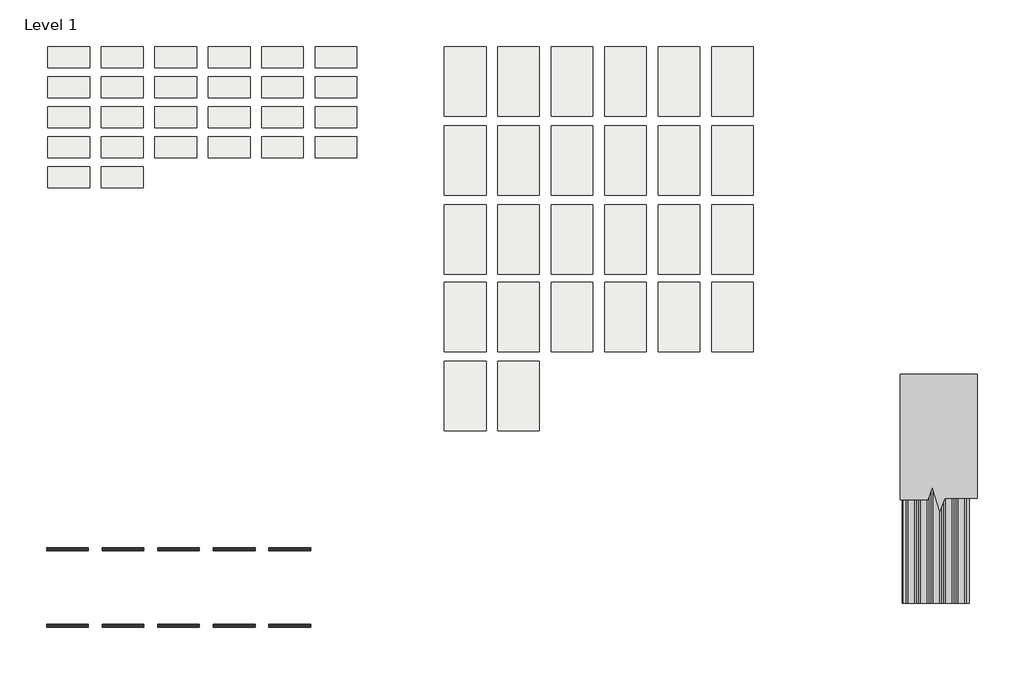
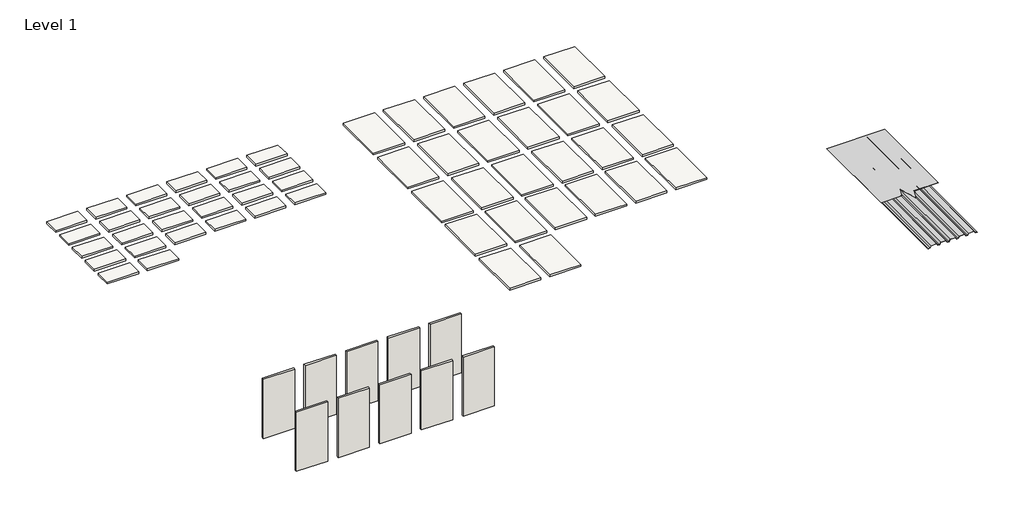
# One storey: 52 slabs, 10 walls, 2 proxies.
"""IFC4 building model written with IfcOpenShell, lengths in millimetres."""

from ifc_helpers import new_model, si_unit, frame, origin, origin_with_axes, place, context, project, spatial, polyline, outline, extrude, transform, mapped, element, save
from components import proxy_838d326f, section_mask_section_mask_d04c1bcf

model = new_model("IFC4")

# Units and contexts
model_context = context("Model", 3, world=origin())
ifc_project = project(units=[si_unit("LENGTHUNIT", "METRE", prefix="MILLI")], contexts=[model_context])

# Site, building, storey
site = spatial("IfcSite", under=ifc_project)
building = spatial("IfcBuilding", under=site)
storey = spatial("IfcBuildingStorey", under=building, Name="Level 1", Elevation=0.0)

# Proxies
placement = place(None, origin())
proxy_shape = proxy_838d326f(model_context)
element("IfcBuildingElementProxy", 1, Name="Box_Rib_Metal-Siding_Panel_AEP_Span : 36\" Box Rib Horizontal - 18ga", ObjectType="Box_Rib_Metal-Siding_Panel_AEP_Span : 36\" Box Rib Horizontal - 18ga", at=placement, inside=storey, context=model_context, shape_type="MappedRepresentation", body=[
    mapped(proxy_shape, transform((8066.2424454, 2674.8522943, 0.0), x_axis=(1.0, 0.0, 0.0), y_axis=(0.0, 1.0, 0.0), z_axis=(0.0, 0.0, 1.0))),
])
section_mask_section_mask_shape = section_mask_section_mask_d04c1bcf(model_context)
element("IfcBuildingElementProxy", 2, Name="Section Mask : Section Mask", ObjectType="Section Mask : Section Mask", at=placement, inside=storey, context=model_context, shape_type="MappedRepresentation", body=[
    mapped(section_mask_section_mask_shape, transform((0.0, 0.0, 0.0), x_axis=(1.0, 0.0, 0.0), y_axis=(0.0, 1.0, 0.0), z_axis=(0.0, 0.0, 1.0))),
])

# Slabs
element("IfcSlab", 3, ObjectType="AEP Span Material Sample", at=placement, inside=storey, context=model_context, shape_type="SweptSolid", body=[
    extrude(outline(polyline([(-4307.8660775, 7199.3976846), (-4917.4660775, 7199.3976846), (-4917.4660775, 7504.1976846), (-4307.8660775, 7504.1976846), (-4307.8660775, 7199.3976846)])), frame((0.0, 0.0, -38.1), z_axis=(0.0, 0.0, 1.0), x_axis=(1.0, 0.0, 0.0)), (0.0, 0.0, 1.0), 38.1),
])
element("IfcSlab", 4, ObjectType="AEP Span Material Sample", at=placement, inside=storey, context=model_context, shape_type="SweptSolid", body=[
    extrude(outline(polyline([(-3526.8160775, 7199.3976846), (-4136.4160775, 7199.3976846), (-4136.4160775, 7504.1976846), (-3526.8160775, 7504.1976846), (-3526.8160775, 7199.3976846)])), frame((0.0, 0.0, -38.1), z_axis=(0.0, 0.0, 1.0), x_axis=(1.0, 0.0, 0.0)), (0.0, 0.0, 1.0), 38.1),
])
element("IfcSlab", 5, ObjectType="AEP Span Material Sample", at=placement, inside=storey, context=model_context, shape_type="SweptSolid", body=[
    extrude(outline(polyline([(-2745.7660775, 7199.3976846), (-3355.3660775, 7199.3976846), (-3355.3660775, 7504.1976846), (-2745.7660775, 7504.1976846), (-2745.7660775, 7199.3976846)])), frame((0.0, 0.0, -38.1), z_axis=(0.0, 0.0, 1.0), x_axis=(1.0, 0.0, 0.0)), (0.0, 0.0, 1.0), 38.1),
])
element("IfcSlab", 6, ObjectType="AEP Span Material Sample", at=placement, inside=storey, context=model_context, shape_type="SweptSolid", body=[
    extrude(outline(polyline([(-1964.7160775, 7199.3976846), (-2574.3160775, 7199.3976846), (-2574.3160775, 7504.1976846), (-1964.7160775, 7504.1976846), (-1964.7160775, 7199.3976846)])), frame((0.0, 0.0, -38.1), z_axis=(0.0, 0.0, 1.0), x_axis=(1.0, 0.0, 0.0)), (0.0, 0.0, 1.0), 38.1),
])
element("IfcSlab", 7, ObjectType="AEP Span Material Sample", at=placement, inside=storey, context=model_context, shape_type="SweptSolid", body=[
    extrude(outline(polyline([(-1183.6660775, 7199.3976846), (-1793.2660775, 7199.3976846), (-1793.2660775, 7504.1976846), (-1183.6660775, 7504.1976846), (-1183.6660775, 7199.3976846)])), frame((0.0, 0.0, -38.1), z_axis=(0.0, 0.0, 1.0), x_axis=(1.0, 0.0, 0.0)), (0.0, 0.0, 1.0), 38.1),
])
element("IfcSlab", 8, ObjectType="AEP Span Material Sample", at=placement, inside=storey, context=model_context, shape_type="SweptSolid", body=[
    extrude(outline(polyline([(-402.6160775, 7199.3976846), (-1012.2160775, 7199.3976846), (-1012.2160775, 7504.1976846), (-402.6160775, 7504.1976846), (-402.6160775, 7199.3976846)])), frame((0.0, 0.0, -38.1), z_axis=(0.0, 0.0, 1.0), x_axis=(1.0, 0.0, 0.0)), (0.0, 0.0, 1.0), 38.1),
])
element("IfcSlab", 9, ObjectType="AEP Span Material Sample", at=placement, inside=storey, context=model_context, shape_type="SweptSolid", body=[
    extrude(outline(polyline([(-4307.8660775, 6761.2476846), (-4917.4660775, 6761.2476846), (-4917.4660775, 7066.0476846), (-4307.8660775, 7066.0476846), (-4307.8660775, 6761.2476846)])), frame((0.0, 0.0, -38.1), z_axis=(0.0, 0.0, 1.0), x_axis=(1.0, 0.0, 0.0)), (0.0, 0.0, 1.0), 38.1),
])
element("IfcSlab", 10, ObjectType="AEP Span Material Sample", at=placement, inside=storey, context=model_context, shape_type="SweptSolid", body=[
    extrude(outline(polyline([(-3526.8160775, 6761.2476846), (-4136.4160775, 6761.2476846), (-4136.4160775, 7066.0476846), (-3526.8160775, 7066.0476846), (-3526.8160775, 6761.2476846)])), frame((0.0, 0.0, -38.1), z_axis=(0.0, 0.0, 1.0), x_axis=(1.0, 0.0, 0.0)), (0.0, 0.0, 1.0), 38.1),
])
element("IfcSlab", 11, ObjectType="AEP Span Material Sample", at=placement, inside=storey, context=model_context, shape_type="SweptSolid", body=[
    extrude(outline(polyline([(-2745.7660775, 6761.2476846), (-3355.3660775, 6761.2476846), (-3355.3660775, 7066.0476846), (-2745.7660775, 7066.0476846), (-2745.7660775, 6761.2476846)])), frame((0.0, 0.0, -38.1), z_axis=(0.0, 0.0, 1.0), x_axis=(1.0, 0.0, 0.0)), (0.0, 0.0, 1.0), 38.1),
])
element("IfcSlab", 12, ObjectType="AEP Span Material Sample", at=placement, inside=storey, context=model_context, shape_type="SweptSolid", body=[
    extrude(outline(polyline([(-1964.7160775, 6761.2476846), (-2574.3160775, 6761.2476846), (-2574.3160775, 7066.0476846), (-1964.7160775, 7066.0476846), (-1964.7160775, 6761.2476846)])), frame((0.0, 0.0, -38.1), z_axis=(0.0, 0.0, 1.0), x_axis=(1.0, 0.0, 0.0)), (0.0, 0.0, 1.0), 38.1),
])
element("IfcSlab", 13, ObjectType="AEP Span Material Sample", at=placement, inside=storey, context=model_context, shape_type="SweptSolid", body=[
    extrude(outline(polyline([(-1183.6660775, 6761.2476846), (-1793.2660775, 6761.2476846), (-1793.2660775, 7066.0476846), (-1183.6660775, 7066.0476846), (-1183.6660775, 6761.2476846)])), frame((0.0, 0.0, -38.1), z_axis=(0.0, 0.0, 1.0), x_axis=(1.0, 0.0, 0.0)), (0.0, 0.0, 1.0), 38.1),
])
element("IfcSlab", 14, ObjectType="AEP Span Material Sample", at=placement, inside=storey, context=model_context, shape_type="SweptSolid", body=[
    extrude(outline(polyline([(-402.6160775, 6761.2476846), (-1012.2160775, 6761.2476846), (-1012.2160775, 7066.0476846), (-402.6160775, 7066.0476846), (-402.6160775, 6761.2476846)])), frame((0.0, 0.0, -38.1), z_axis=(0.0, 0.0, 1.0), x_axis=(1.0, 0.0, 0.0)), (0.0, 0.0, 1.0), 38.1),
])
element("IfcSlab", 15, ObjectType="AEP Span Material Sample", at=placement, inside=storey, context=model_context, shape_type="SweptSolid", body=[
    extrude(outline(polyline([(-4307.8660775, 6323.0976846), (-4917.4660775, 6323.0976846), (-4917.4660775, 6627.8976846), (-4307.8660775, 6627.8976846), (-4307.8660775, 6323.0976846)])), frame((0.0, 0.0, -38.1), z_axis=(0.0, 0.0, 1.0), x_axis=(1.0, 0.0, 0.0)), (0.0, 0.0, 1.0), 38.1),
])
element("IfcSlab", 16, ObjectType="AEP Span Material Sample", at=placement, inside=storey, context=model_context, shape_type="SweptSolid", body=[
    extrude(outline(polyline([(-3526.8160775, 6323.0976846), (-4136.4160775, 6323.0976846), (-4136.4160775, 6627.8976846), (-3526.8160775, 6627.8976846), (-3526.8160775, 6323.0976846)])), frame((0.0, 0.0, -38.1), z_axis=(0.0, 0.0, 1.0), x_axis=(1.0, 0.0, 0.0)), (0.0, 0.0, 1.0), 38.1),
])
element("IfcSlab", 17, ObjectType="AEP Span Material Sample", at=placement, inside=storey, context=model_context, shape_type="SweptSolid", body=[
    extrude(outline(polyline([(-2745.7660775, 6323.0976846), (-3355.3660775, 6323.0976846), (-3355.3660775, 6627.8976846), (-2745.7660775, 6627.8976846), (-2745.7660775, 6323.0976846)])), frame((0.0, 0.0, -38.1), z_axis=(0.0, 0.0, 1.0), x_axis=(1.0, 0.0, 0.0)), (0.0, 0.0, 1.0), 38.1),
])
element("IfcSlab", 18, ObjectType="AEP Span Material Sample", at=placement, inside=storey, context=model_context, shape_type="SweptSolid", body=[
    extrude(outline(polyline([(-1964.7160775, 6323.0976846), (-2574.3160775, 6323.0976846), (-2574.3160775, 6627.8976846), (-1964.7160775, 6627.8976846), (-1964.7160775, 6323.0976846)])), frame((0.0, 0.0, -38.1), z_axis=(0.0, 0.0, 1.0), x_axis=(1.0, 0.0, 0.0)), (0.0, 0.0, 1.0), 38.1),
])
element("IfcSlab", 19, ObjectType="AEP Span Material Sample", at=placement, inside=storey, context=model_context, shape_type="SweptSolid", body=[
    extrude(outline(polyline([(-1183.6660775, 6323.0976846), (-1793.2660775, 6323.0976846), (-1793.2660775, 6627.8976846), (-1183.6660775, 6627.8976846), (-1183.6660775, 6323.0976846)])), frame((0.0, 0.0, -38.1), z_axis=(0.0, 0.0, 1.0), x_axis=(1.0, 0.0, 0.0)), (0.0, 0.0, 1.0), 38.1),
])
element("IfcSlab", 20, ObjectType="AEP Span Material Sample", at=placement, inside=storey, context=model_context, shape_type="SweptSolid", body=[
    extrude(outline(polyline([(-402.6160775, 6323.0976846), (-1012.2160775, 6323.0976846), (-1012.2160775, 6627.8976846), (-402.6160775, 6627.8976846), (-402.6160775, 6323.0976846)])), frame((0.0, 0.0, -38.1), z_axis=(0.0, 0.0, 1.0), x_axis=(1.0, 0.0, 0.0)), (0.0, 0.0, 1.0), 38.1),
])
element("IfcSlab", 21, ObjectType="AEP Span Material Sample", at=placement, inside=storey, context=model_context, shape_type="SweptSolid", body=[
    extrude(outline(polyline([(-4307.8660775, 5884.9476846), (-4917.4660775, 5884.9476846), (-4917.4660775, 6189.7476846), (-4307.8660775, 6189.7476846), (-4307.8660775, 5884.9476846)])), frame((0.0, 0.0, -38.1), z_axis=(0.0, 0.0, 1.0), x_axis=(1.0, 0.0, 0.0)), (0.0, 0.0, 1.0), 38.1),
])
element("IfcSlab", 22, ObjectType="AEP Span Material Sample", at=placement, inside=storey, context=model_context, shape_type="SweptSolid", body=[
    extrude(outline(polyline([(-3526.8160775, 5884.9476846), (-4136.4160775, 5884.9476846), (-4136.4160775, 6189.7476846), (-3526.8160775, 6189.7476846), (-3526.8160775, 5884.9476846)])), frame((0.0, 0.0, -38.1), z_axis=(0.0, 0.0, 1.0), x_axis=(1.0, 0.0, 0.0)), (0.0, 0.0, 1.0), 38.1),
])
element("IfcSlab", 23, ObjectType="AEP Span Material Sample", at=placement, inside=storey, context=model_context, shape_type="SweptSolid", body=[
    extrude(outline(polyline([(-2745.7660775, 5884.9476846), (-3355.3660775, 5884.9476846), (-3355.3660775, 6189.7476846), (-2745.7660775, 6189.7476846), (-2745.7660775, 5884.9476846)])), frame((0.0, 0.0, -38.1), z_axis=(0.0, 0.0, 1.0), x_axis=(1.0, 0.0, 0.0)), (0.0, 0.0, 1.0), 38.1),
])
element("IfcSlab", 24, ObjectType="AEP Span Material Sample", at=placement, inside=storey, context=model_context, shape_type="SweptSolid", body=[
    extrude(outline(polyline([(-1964.7160775, 5884.9476846), (-2574.3160775, 5884.9476846), (-2574.3160775, 6189.7476846), (-1964.7160775, 6189.7476846), (-1964.7160775, 5884.9476846)])), frame((0.0, 0.0, -38.1), z_axis=(0.0, 0.0, 1.0), x_axis=(1.0, 0.0, 0.0)), (0.0, 0.0, 1.0), 38.1),
])
element("IfcSlab", 25, ObjectType="AEP Span Material Sample", at=placement, inside=storey, context=model_context, shape_type="SweptSolid", body=[
    extrude(outline(polyline([(-1183.6660775, 5884.9476846), (-1793.2660775, 5884.9476846), (-1793.2660775, 6189.7476846), (-1183.6660775, 6189.7476846), (-1183.6660775, 5884.9476846)])), frame((0.0, 0.0, -38.1), z_axis=(0.0, 0.0, 1.0), x_axis=(1.0, 0.0, 0.0)), (0.0, 0.0, 1.0), 38.1),
])
element("IfcSlab", 26, ObjectType="AEP Span Material Sample", at=placement, inside=storey, context=model_context, shape_type="SweptSolid", body=[
    extrude(outline(polyline([(-402.6160775, 5884.9476846), (-1012.2160775, 5884.9476846), (-1012.2160775, 6189.7476846), (-402.6160775, 6189.7476846), (-402.6160775, 5884.9476846)])), frame((0.0, 0.0, -38.1), z_axis=(0.0, 0.0, 1.0), x_axis=(1.0, 0.0, 0.0)), (0.0, 0.0, 1.0), 38.1),
])
element("IfcSlab", 27, ObjectType="AEP Span Material Sample", at=placement, inside=storey, context=model_context, shape_type="SweptSolid", body=[
    extrude(outline(polyline([(-4307.8660775, 5446.7976846), (-4917.4660775, 5446.7976846), (-4917.4660775, 5751.5976846), (-4307.8660775, 5751.5976846), (-4307.8660775, 5446.7976846)])), frame((0.0, 0.0, -38.1), z_axis=(0.0, 0.0, 1.0), x_axis=(1.0, 0.0, 0.0)), (0.0, 0.0, 1.0), 38.1),
])
element("IfcSlab", 28, ObjectType="AEP Span Material Sample", at=placement, inside=storey, context=model_context, shape_type="SweptSolid", body=[
    extrude(outline(polyline([(-3526.8160775, 5446.7976846), (-4136.4160775, 5446.7976846), (-4136.4160775, 5751.5976846), (-3526.8160775, 5751.5976846), (-3526.8160775, 5446.7976846)])), frame((0.0, 0.0, -38.1), z_axis=(0.0, 0.0, 1.0), x_axis=(1.0, 0.0, 0.0)), (0.0, 0.0, 1.0), 38.1),
])
element("IfcSlab", 29, ObjectType="AEP Span Material Sample", at=placement, inside=storey, context=model_context, shape_type="SweptSolid", body=[
    extrude(outline(polyline([(1485.5495194, 6492.0895229), (875.9495194, 6492.0895229), (875.9495194, 7508.0895229), (1485.5495194, 7508.0895229), (1485.5495194, 6492.0895229)])), frame((0.0, 0.0, -38.1), z_axis=(0.0, 0.0, 1.0), x_axis=(1.0, 0.0, 0.0)), (0.0, 0.0, 1.0), 38.1),
])
element("IfcSlab", 30, ObjectType="AEP Span Material Sample", at=placement, inside=storey, context=model_context, shape_type="SweptSolid", body=[
    extrude(outline(polyline([(2266.5995194, 6492.0895229), (1656.9995194, 6492.0895229), (1656.9995194, 7508.0895229), (2266.5995194, 7508.0895229), (2266.5995194, 6492.0895229)])), frame((0.0, 0.0, -38.1), z_axis=(0.0, 0.0, 1.0), x_axis=(1.0, 0.0, 0.0)), (0.0, 0.0, 1.0), 38.1),
])
element("IfcSlab", 31, ObjectType="AEP Span Material Sample", at=placement, inside=storey, context=model_context, shape_type="SweptSolid", body=[
    extrude(outline(polyline([(3047.6495194, 6492.0895229), (2438.0495194, 6492.0895229), (2438.0495194, 7508.0895229), (3047.6495194, 7508.0895229), (3047.6495194, 6492.0895229)])), frame((0.0, 0.0, -38.1), z_axis=(0.0, 0.0, 1.0), x_axis=(1.0, 0.0, 0.0)), (0.0, 0.0, 1.0), 38.1),
])
element("IfcSlab", 32, ObjectType="AEP Span Material Sample", at=placement, inside=storey, context=model_context, shape_type="SweptSolid", body=[
    extrude(outline(polyline([(3828.6995194, 6492.0895229), (3219.0995194, 6492.0895229), (3219.0995194, 7508.0895229), (3828.6995194, 7508.0895229), (3828.6995194, 6492.0895229)])), frame((0.0, 0.0, -38.1), z_axis=(0.0, 0.0, 1.0), x_axis=(1.0, 0.0, 0.0)), (0.0, 0.0, 1.0), 38.1),
])
element("IfcSlab", 33, ObjectType="AEP Span Material Sample", at=placement, inside=storey, context=model_context, shape_type="SweptSolid", body=[
    extrude(outline(polyline([(4609.7495194, 6492.0895229), (4000.1495194, 6492.0895229), (4000.1495194, 7508.0895229), (4609.7495194, 7508.0895229), (4609.7495194, 6492.0895229)])), frame((0.0, 0.0, -38.1), z_axis=(0.0, 0.0, 1.0), x_axis=(1.0, 0.0, 0.0)), (0.0, 0.0, 1.0), 38.1),
])
element("IfcSlab", 34, ObjectType="AEP Span Material Sample", at=placement, inside=storey, context=model_context, shape_type="SweptSolid", body=[
    extrude(outline(polyline([(5390.7995194, 6492.0895229), (4781.1995194, 6492.0895229), (4781.1995194, 7508.0895229), (5390.7995194, 7508.0895229), (5390.7995194, 6492.0895229)])), frame((0.0, 0.0, -38.1), z_axis=(0.0, 0.0, 1.0), x_axis=(1.0, 0.0, 0.0)), (0.0, 0.0, 1.0), 38.1),
])
element("IfcSlab", 35, ObjectType="AEP Span Material Sample", at=placement, inside=storey, context=model_context, shape_type="SweptSolid", body=[
    extrude(outline(polyline([(1485.5495194, 5336.3895229), (875.9495194, 5336.3895229), (875.9495194, 6352.3895229), (1485.5495194, 6352.3895229), (1485.5495194, 5336.3895229)])), frame((0.0, 0.0, -38.1), z_axis=(0.0, 0.0, 1.0), x_axis=(1.0, 0.0, 0.0)), (0.0, 0.0, 1.0), 38.1),
])
element("IfcSlab", 36, ObjectType="AEP Span Material Sample", at=placement, inside=storey, context=model_context, shape_type="SweptSolid", body=[
    extrude(outline(polyline([(2266.5995194, 5336.3895229), (1656.9995194, 5336.3895229), (1656.9995194, 6352.3895229), (2266.5995194, 6352.3895229), (2266.5995194, 5336.3895229)])), frame((0.0, 0.0, -38.1), z_axis=(0.0, 0.0, 1.0), x_axis=(1.0, 0.0, 0.0)), (0.0, 0.0, 1.0), 38.1),
])
element("IfcSlab", 37, ObjectType="AEP Span Material Sample", at=placement, inside=storey, context=model_context, shape_type="SweptSolid", body=[
    extrude(outline(polyline([(3047.6495194, 5336.3895229), (2438.0495194, 5336.3895229), (2438.0495194, 6352.3895229), (3047.6495194, 6352.3895229), (3047.6495194, 5336.3895229)])), frame((0.0, 0.0, -38.1), z_axis=(0.0, 0.0, 1.0), x_axis=(1.0, 0.0, 0.0)), (0.0, 0.0, 1.0), 38.1),
])
element("IfcSlab", 38, ObjectType="AEP Span Material Sample", at=placement, inside=storey, context=model_context, shape_type="SweptSolid", body=[
    extrude(outline(polyline([(3828.6995194, 5336.3895229), (3219.0995194, 5336.3895229), (3219.0995194, 6352.3895229), (3828.6995194, 6352.3895229), (3828.6995194, 5336.3895229)])), frame((0.0, 0.0, -38.1), z_axis=(0.0, 0.0, 1.0), x_axis=(1.0, 0.0, 0.0)), (0.0, 0.0, 1.0), 38.1),
])
element("IfcSlab", 39, ObjectType="AEP Span Material Sample", at=placement, inside=storey, context=model_context, shape_type="SweptSolid", body=[
    extrude(outline(polyline([(4609.7495194, 5336.3895229), (4000.1495194, 5336.3895229), (4000.1495194, 6352.3895229), (4609.7495194, 6352.3895229), (4609.7495194, 5336.3895229)])), frame((0.0, 0.0, -38.1), z_axis=(0.0, 0.0, 1.0), x_axis=(1.0, 0.0, 0.0)), (0.0, 0.0, 1.0), 38.1),
])
element("IfcSlab", 40, ObjectType="AEP Span Material Sample", at=placement, inside=storey, context=model_context, shape_type="SweptSolid", body=[
    extrude(outline(polyline([(5390.7995194, 5336.3895229), (4781.1995194, 5336.3895229), (4781.1995194, 6352.3895229), (5390.7995194, 6352.3895229), (5390.7995194, 5336.3895229)])), frame((0.0, 0.0, -38.1), z_axis=(0.0, 0.0, 1.0), x_axis=(1.0, 0.0, 0.0)), (0.0, 0.0, 1.0), 38.1),
])
element("IfcSlab", 41, ObjectType="AEP Span Material Sample", at=placement, inside=storey, context=model_context, shape_type="SweptSolid", body=[
    extrude(outline(polyline([(1485.5495194, 4180.6895229), (875.9495194, 4180.6895229), (875.9495194, 5196.6895229), (1485.5495194, 5196.6895229), (1485.5495194, 4180.6895229)])), frame((0.0, 0.0, -38.1), z_axis=(0.0, 0.0, 1.0), x_axis=(1.0, 0.0, 0.0)), (0.0, 0.0, 1.0), 38.1),
])
element("IfcSlab", 42, ObjectType="AEP Span Material Sample", at=placement, inside=storey, context=model_context, shape_type="SweptSolid", body=[
    extrude(outline(polyline([(2266.5995194, 4180.6895229), (1656.9995194, 4180.6895229), (1656.9995194, 5196.6895229), (2266.5995194, 5196.6895229), (2266.5995194, 4180.6895229)])), frame((0.0, 0.0, -38.1), z_axis=(0.0, 0.0, 1.0), x_axis=(1.0, 0.0, 0.0)), (0.0, 0.0, 1.0), 38.1),
])
element("IfcSlab", 43, ObjectType="AEP Span Material Sample", at=placement, inside=storey, context=model_context, shape_type="SweptSolid", body=[
    extrude(outline(polyline([(3047.6495194, 4180.6895229), (2438.0495194, 4180.6895229), (2438.0495194, 5196.6895229), (3047.6495194, 5196.6895229), (3047.6495194, 4180.6895229)])), frame((0.0, 0.0, -38.1), z_axis=(0.0, 0.0, 1.0), x_axis=(1.0, 0.0, 0.0)), (0.0, 0.0, 1.0), 38.1),
])
element("IfcSlab", 44, ObjectType="AEP Span Material Sample", at=placement, inside=storey, context=model_context, shape_type="SweptSolid", body=[
    extrude(outline(polyline([(3828.6995194, 4180.6895229), (3219.0995194, 4180.6895229), (3219.0995194, 5196.6895229), (3828.6995194, 5196.6895229), (3828.6995194, 4180.6895229)])), frame((0.0, 0.0, -38.1), z_axis=(0.0, 0.0, 1.0), x_axis=(1.0, 0.0, 0.0)), (0.0, 0.0, 1.0), 38.1),
])
element("IfcSlab", 45, ObjectType="AEP Span Material Sample", at=placement, inside=storey, context=model_context, shape_type="SweptSolid", body=[
    extrude(outline(polyline([(4609.7495194, 4180.6895229), (4000.1495194, 4180.6895229), (4000.1495194, 5196.6895229), (4609.7495194, 5196.6895229), (4609.7495194, 4180.6895229)])), frame((0.0, 0.0, -38.1), z_axis=(0.0, 0.0, 1.0), x_axis=(1.0, 0.0, 0.0)), (0.0, 0.0, 1.0), 38.1),
])
element("IfcSlab", 46, ObjectType="AEP Span Material Sample", at=placement, inside=storey, context=model_context, shape_type="SweptSolid", body=[
    extrude(outline(polyline([(5390.7995194, 4180.6895229), (4781.1995194, 4180.6895229), (4781.1995194, 5196.6895229), (5390.7995194, 5196.6895229), (5390.7995194, 4180.6895229)])), frame((0.0, 0.0, -38.1), z_axis=(0.0, 0.0, 1.0), x_axis=(1.0, 0.0, 0.0)), (0.0, 0.0, 1.0), 38.1),
])
element("IfcSlab", 47, ObjectType="AEP Span Material Sample", at=placement, inside=storey, context=model_context, shape_type="SweptSolid", body=[
    extrude(outline(polyline([(1485.5495194, 3050.3895229), (875.9495194, 3050.3895229), (875.9495194, 4066.3895229), (1485.5495194, 4066.3895229), (1485.5495194, 3050.3895229)])), frame((0.0, 0.0, -38.1), z_axis=(0.0, 0.0, 1.0), x_axis=(1.0, 0.0, 0.0)), (0.0, 0.0, 1.0), 38.1),
])
element("IfcSlab", 48, ObjectType="AEP Span Material Sample", at=placement, inside=storey, context=model_context, shape_type="SweptSolid", body=[
    extrude(outline(polyline([(2266.5995194, 3050.3895229), (1656.9995194, 3050.3895229), (1656.9995194, 4066.3895229), (2266.5995194, 4066.3895229), (2266.5995194, 3050.3895229)])), frame((0.0, 0.0, -38.1), z_axis=(0.0, 0.0, 1.0), x_axis=(1.0, 0.0, 0.0)), (0.0, 0.0, 1.0), 38.1),
])
element("IfcSlab", 49, ObjectType="AEP Span Material Sample", at=placement, inside=storey, context=model_context, shape_type="SweptSolid", body=[
    extrude(outline(polyline([(3047.6495194, 3050.3895229), (2438.0495194, 3050.3895229), (2438.0495194, 4066.3895229), (3047.6495194, 4066.3895229), (3047.6495194, 3050.3895229)])), frame((0.0, 0.0, -38.1), z_axis=(0.0, 0.0, 1.0), x_axis=(1.0, 0.0, 0.0)), (0.0, 0.0, 1.0), 38.1),
])
element("IfcSlab", 50, ObjectType="AEP Span Material Sample", at=placement, inside=storey, context=model_context, shape_type="SweptSolid", body=[
    extrude(outline(polyline([(3828.6995194, 3050.3895229), (3219.0995194, 3050.3895229), (3219.0995194, 4066.3895229), (3828.6995194, 4066.3895229), (3828.6995194, 3050.3895229)])), frame((0.0, 0.0, -38.1), z_axis=(0.0, 0.0, 1.0), x_axis=(1.0, 0.0, 0.0)), (0.0, 0.0, 1.0), 38.1),
])
element("IfcSlab", 51, ObjectType="AEP Span Material Sample", at=placement, inside=storey, context=model_context, shape_type="SweptSolid", body=[
    extrude(outline(polyline([(4609.7495194, 3050.3895229), (4000.1495194, 3050.3895229), (4000.1495194, 4066.3895229), (4609.7495194, 4066.3895229), (4609.7495194, 3050.3895229)])), frame((0.0, 0.0, -38.1), z_axis=(0.0, 0.0, 1.0), x_axis=(1.0, 0.0, 0.0)), (0.0, 0.0, 1.0), 38.1),
])
element("IfcSlab", 52, ObjectType="AEP Span Material Sample", at=placement, inside=storey, context=model_context, shape_type="SweptSolid", body=[
    extrude(outline(polyline([(5390.7995194, 3050.3895229), (4781.1995194, 3050.3895229), (4781.1995194, 4066.3895229), (5390.7995194, 4066.3895229), (5390.7995194, 3050.3895229)])), frame((0.0, 0.0, -38.1), z_axis=(0.0, 0.0, 1.0), x_axis=(1.0, 0.0, 0.0)), (0.0, 0.0, 1.0), 38.1),
])
element("IfcSlab", 53, ObjectType="AEP Span Material Sample", at=placement, inside=storey, context=model_context, shape_type="SweptSolid", body=[
    extrude(outline(polyline([(1485.5495194, 1894.6895229), (875.9495194, 1894.6895229), (875.9495194, 2910.6895229), (1485.5495194, 2910.6895229), (1485.5495194, 1894.6895229)])), frame((0.0, 0.0, -38.1), z_axis=(0.0, 0.0, 1.0), x_axis=(1.0, 0.0, 0.0)), (0.0, 0.0, 1.0), 38.1),
])
element("IfcSlab", 54, ObjectType="AEP Span Material Sample", at=placement, inside=storey, context=model_context, shape_type="SweptSolid", body=[
    extrude(outline(polyline([(2266.5995194, 1894.6895229), (1656.9995194, 1894.6895229), (1656.9995194, 2910.6895229), (2266.5995194, 2910.6895229), (2266.5995194, 1894.6895229)])), frame((0.0, 0.0, -38.1), z_axis=(0.0, 0.0, 1.0), x_axis=(1.0, 0.0, 0.0)), (0.0, 0.0, 1.0), 38.1),
])

# Walls
element("IfcWall", 55, ObjectType="36\" Box Rib Horizontal - 18ga", at=placement, inside=storey, context=model_context, shape_type="SweptSolid", body=[
    extrude(outline(polyline([(-4328.9575546, 141.2022943), (-4938.5575546, 141.2022943), (-4938.5575546, 179.3022943), (-4328.9575546, 179.3022943), (-4328.9575546, 141.2022943)])), origin_with_axes(), (0.0, 0.0, 1.0), 1219.2),
])
element("IfcWall", 56, ObjectType="36\" Box Rib Horizontal - 20ga", at=placement, inside=storey, context=model_context, shape_type="SweptSolid", body=[
    extrude(outline(polyline([(-3516.1575546, 141.2022943), (-4125.7575546, 141.2022943), (-4125.7575546, 179.3022943), (-3516.1575546, 179.3022943), (-3516.1575546, 141.2022943)])), origin_with_axes(), (0.0, 0.0, 1.0), 1219.2),
])
element("IfcWall", 57, ObjectType="36\" Box Rib Horizontal - 22ga", at=placement, inside=storey, context=model_context, shape_type="SweptSolid", body=[
    extrude(outline(polyline([(-2703.3575546, 141.2022943), (-3312.9575546, 141.2022943), (-3312.9575546, 179.3022943), (-2703.3575546, 179.3022943), (-2703.3575546, 141.2022943)])), origin_with_axes(), (0.0, 0.0, 1.0), 1219.2),
])
element("IfcWall", 58, ObjectType="36\" Box Rib Horizontal - 24ga", at=placement, inside=storey, context=model_context, shape_type="SweptSolid", body=[
    extrude(outline(polyline([(-1890.5575546, 141.2022943), (-2500.1575546, 141.2022943), (-2500.1575546, 179.3022943), (-1890.5575546, 179.3022943), (-1890.5575546, 141.2022943)])), origin_with_axes(), (0.0, 0.0, 1.0), 1219.2),
])
element("IfcWall", 59, ObjectType="36\" Box Rib Horizontal - 26ga", at=placement, inside=storey, context=model_context, shape_type="SweptSolid", body=[
    extrude(outline(polyline([(-1077.7575546, 141.2022943), (-1687.3575546, 141.2022943), (-1687.3575546, 179.3022943), (-1077.7575546, 179.3022943), (-1077.7575546, 141.2022943)])), origin_with_axes(), (0.0, 0.0, 1.0), 1219.2),
])
element("IfcWall", 60, ObjectType="36\" Box Rib Vertical - 18ga", at=placement, inside=storey, context=model_context, shape_type="SweptSolid", body=[
    extrude(outline(polyline([(-4328.9575546, -976.3977057), (-4938.5575546, -976.3977057), (-4938.5575546, -938.2977057), (-4328.9575546, -938.2977057), (-4328.9575546, -976.3977057)])), origin_with_axes(), (0.0, 0.0, 1.0), 1219.2),
])
element("IfcWall", 61, ObjectType="36\" Box Rib Vertical - 20ga", at=placement, inside=storey, context=model_context, shape_type="SweptSolid", body=[
    extrude(outline(polyline([(-3516.1575546, -976.3977057), (-4125.7575546, -976.3977057), (-4125.7575546, -938.2977057), (-3516.1575546, -938.2977057), (-3516.1575546, -976.3977057)])), origin_with_axes(), (0.0, 0.0, 1.0), 1219.2),
])
element("IfcWall", 62, ObjectType="36\" Box Rib Vertical - 22ga", at=placement, inside=storey, context=model_context, shape_type="SweptSolid", body=[
    extrude(outline(polyline([(-2703.3575546, -976.3977057), (-3312.9575546, -976.3977057), (-3312.9575546, -938.2977057), (-2703.3575546, -938.2977057), (-2703.3575546, -976.3977057)])), origin_with_axes(), (0.0, 0.0, 1.0), 1219.2),
])
element("IfcWall", 63, ObjectType="36\" Box Rib Vertical - 24ga", at=placement, inside=storey, context=model_context, shape_type="SweptSolid", body=[
    extrude(outline(polyline([(-1890.5575546, -976.3977057), (-2500.1575546, -976.3977057), (-2500.1575546, -938.2977057), (-1890.5575546, -938.2977057), (-1890.5575546, -976.3977057)])), origin_with_axes(), (0.0, 0.0, 1.0), 1219.2),
])
element("IfcWall", 64, ObjectType="36\" Box Rib Vertical - 26ga", at=placement, inside=storey, context=model_context, shape_type="SweptSolid", body=[
    extrude(outline(polyline([(-1077.7575546, -976.3977057), (-1687.3575546, -976.3977057), (-1687.3575546, -938.2977057), (-1077.7575546, -938.2977057), (-1077.7575546, -976.3977057)])), origin_with_axes(), (0.0, 0.0, 1.0), 1219.2),
])

save(model, "model.ifc")
